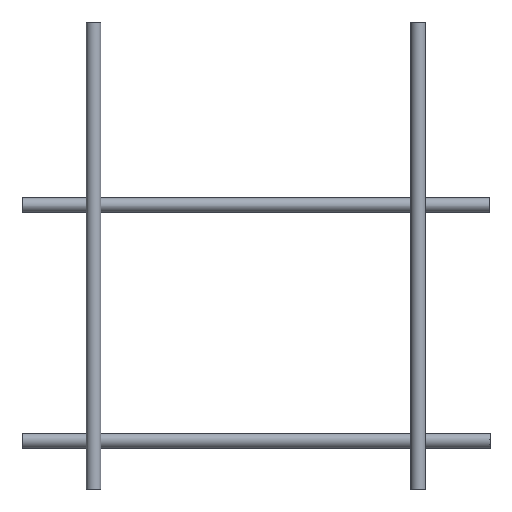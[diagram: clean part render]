
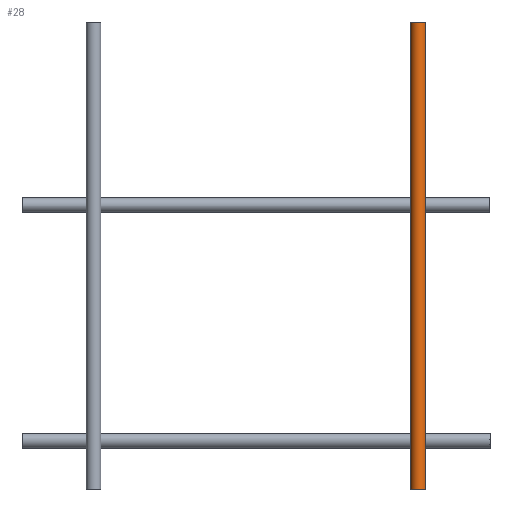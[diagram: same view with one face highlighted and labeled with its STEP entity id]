
A CAD part, front view. The second image highlights one B-rep face of the part: STEP entity #28.
In plain terms, the highlighted cylindrical face has radius 4 mm (diameter 8 mm), a partial arc.
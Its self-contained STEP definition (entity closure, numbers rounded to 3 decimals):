
#28=ADVANCED_FACE('',(#44),#192,.T.);
#44=FACE_OUTER_BOUND('',#60,.T.);
#60=EDGE_LOOP('',(#92,#93,#94,#95));
#92=ORIENTED_EDGE('',*,*,#131,.T.);
#93=ORIENTED_EDGE('',*,*,#130,.F.);
#94=ORIENTED_EDGE('',*,*,#129,.F.);
#95=ORIENTED_EDGE('',*,*,#128,.T.);
#128=EDGE_CURVE('',#172,#174,#152,.T.);
#129=EDGE_CURVE('',#172,#173,#153,.T.);
#130=EDGE_CURVE('',#173,#175,#154,.T.);
#131=EDGE_CURVE('',#174,#175,#155,.T.);
#152=(
BOUNDED_CURVE()
B_SPLINE_CURVE(2,(#394,#395,#396,#397,#398),.UNSPECIFIED.,.F.,.F.)
B_SPLINE_CURVE_WITH_KNOTS((3,2,3),(0.,6.283,12.566),
 .UNSPECIFIED.)
CURVE()
GEOMETRIC_REPRESENTATION_ITEM()
RATIONAL_B_SPLINE_CURVE((1.,0.707,1.,0.707,1.))
REPRESENTATION_ITEM('')
);
#153=(
BOUNDED_CURVE()
B_SPLINE_CURVE(1,(#399,#400),.UNSPECIFIED.,.F.,.F.)
B_SPLINE_CURVE_WITH_KNOTS((2,2),(0.,255.),.UNSPECIFIED.)
CURVE()
GEOMETRIC_REPRESENTATION_ITEM()
RATIONAL_B_SPLINE_CURVE((1.,1.))
REPRESENTATION_ITEM('')
);
#154=(
BOUNDED_CURVE()
B_SPLINE_CURVE(2,(#401,#402,#403,#404,#405),.UNSPECIFIED.,.F.,.F.)
B_SPLINE_CURVE_WITH_KNOTS((3,2,3),(0.,6.283,12.566),
 .UNSPECIFIED.)
CURVE()
GEOMETRIC_REPRESENTATION_ITEM()
RATIONAL_B_SPLINE_CURVE((1.,0.707,1.,0.707,1.))
REPRESENTATION_ITEM('')
);
#155=(
BOUNDED_CURVE()
B_SPLINE_CURVE(1,(#406,#407),.UNSPECIFIED.,.F.,.F.)
B_SPLINE_CURVE_WITH_KNOTS((2,2),(0.,255.),.UNSPECIFIED.)
CURVE()
GEOMETRIC_REPRESENTATION_ITEM()
RATIONAL_B_SPLINE_CURVE((1.,1.))
REPRESENTATION_ITEM('')
);
#172=VERTEX_POINT('',#390);
#173=VERTEX_POINT('',#391);
#174=VERTEX_POINT('',#392);
#175=VERTEX_POINT('',#393);
#192=CYLINDRICAL_SURFACE('',#292,4.);
#292=AXIS2_PLACEMENT_3D('',#386,#311,$);
#311=DIRECTION('',(0.,0.,1.));
#386=CARTESIAN_POINT('',(88.514,-18.1,90.806));
#390=CARTESIAN_POINT('',(84.514,-18.1,-36.694));
#391=CARTESIAN_POINT('',(84.514,-18.1,218.306));
#392=CARTESIAN_POINT('',(92.514,-18.1,-36.694));
#393=CARTESIAN_POINT('',(92.514,-18.1,218.306));
#394=CARTESIAN_POINT('',(84.514,-18.1,-36.694));
#395=CARTESIAN_POINT('',(84.514,-22.1,-36.694));
#396=CARTESIAN_POINT('',(88.514,-22.1,-36.694));
#397=CARTESIAN_POINT('',(92.514,-22.1,-36.694));
#398=CARTESIAN_POINT('',(92.514,-18.1,-36.694));
#399=CARTESIAN_POINT('',(84.514,-18.1,-36.694));
#400=CARTESIAN_POINT('',(84.514,-18.1,218.306));
#401=CARTESIAN_POINT('',(84.514,-18.1,218.306));
#402=CARTESIAN_POINT('',(84.514,-22.1,218.306));
#403=CARTESIAN_POINT('',(88.514,-22.1,218.306));
#404=CARTESIAN_POINT('',(92.514,-22.1,218.306));
#405=CARTESIAN_POINT('',(92.514,-18.1,218.306));
#406=CARTESIAN_POINT('',(92.514,-18.1,-36.694));
#407=CARTESIAN_POINT('',(92.514,-18.1,218.306));
